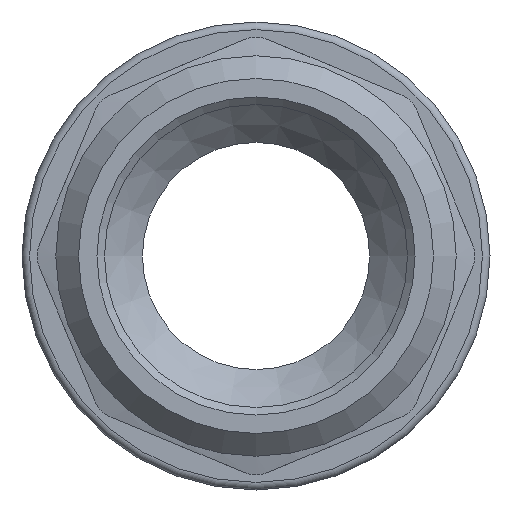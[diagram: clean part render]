
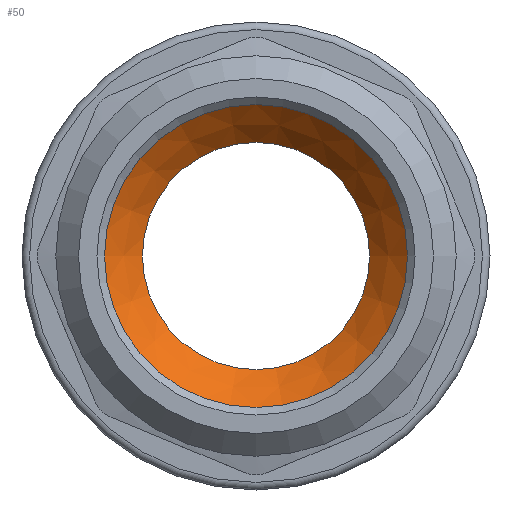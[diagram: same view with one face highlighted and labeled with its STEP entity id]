
A CAD part, front view. The second image highlights one B-rep face of the part: STEP entity #50.
In plain terms, the highlighted conical face has half-angle 45 degrees and reference radius 8.75 mm.
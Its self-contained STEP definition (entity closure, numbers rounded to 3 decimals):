
#50=ADVANCED_FACE('',(#170,#172),#174,.F.);
#170=FACE_OUTER_BOUND('',#171,.T.);
#171=EDGE_LOOP('',(#744));
#172=FACE_OUTER_BOUND('',#173,.T.);
#173=EDGE_LOOP('',(#745));
#174=CONICAL_SURFACE('',#175,8.75,0.785);
#175=AXIS2_PLACEMENT_3D('',#176,#177,#178);
#176=CARTESIAN_POINT('',(0.,-6.85,0.));
#177=DIRECTION('',(0.,-1.,0.));
#178=DIRECTION('',(1.,0.,0.));
#744=ORIENTED_EDGE('',*,*,#946,.T.);
#745=ORIENTED_EDGE('',*,*,#949,.F.);
#946=EDGE_CURVE('',#1055,#1055,#1056,.T.);
#949=EDGE_CURVE('',#1061,#1061,#1062,.T.);
#1055=VERTEX_POINT('',#1261);
#1056=CIRCLE('',#1262,10.);
#1061=VERTEX_POINT('',#1276);
#1062=CIRCLE('',#1277,7.5);
#1261=CARTESIAN_POINT('',(10.,-8.1,0.));
#1262=AXIS2_PLACEMENT_3D('',#1263,#1264,#1265);
#1263=CARTESIAN_POINT('',(0.,-8.1,0.));
#1264=DIRECTION('',(0.,-1.,0.));
#1265=DIRECTION('',(1.,0.,0.));
#1276=CARTESIAN_POINT('',(7.5,-5.6,0.));
#1277=AXIS2_PLACEMENT_3D('',#1278,#1279,#1280);
#1278=CARTESIAN_POINT('',(0.,-5.6,0.));
#1279=DIRECTION('',(0.,-1.,0.));
#1280=DIRECTION('',(1.,0.,0.));
